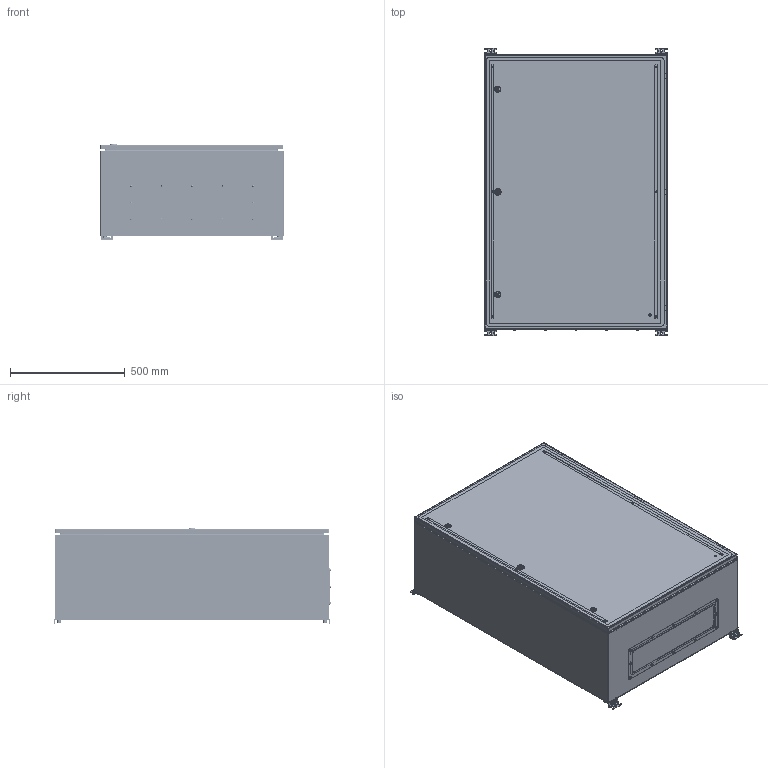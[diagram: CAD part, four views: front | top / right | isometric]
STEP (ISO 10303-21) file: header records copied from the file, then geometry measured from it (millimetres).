
FILE_DESCRIPTION(('STEP AP242'), '1');
FILE_NAME('400 ﾙﾌﾏ-1 (IP-56)', '', ('UNSPECIFIED'), ('UNSPECIFIED'), 'C3D Converter', 'C3D Toolkit', '');
FILE_SCHEMA(('AP242_MANAGED_MODEL_BASED_3D_ENGINEERING_MIM_LF { 1 0 10303 442 1 1 4 }'));
Length unit declared in the file: millimetre
Products named in the file (49): ЩМП-1-Л СБ; 410-Л; 420; 421; 411; 430-Л; 431-Л; 490; 491; 401; 440; 441; 402; 403
Assembly tree (158 placements, depth 4):
  ЩМП-1-Л СБ
    410-Л
      420
        421
        (unnamed)  x6
        (unnamed)
      411
      430-Л
        431-Л
        (unnamed)  x12
    490  x2
      491
      (unnamed)
      (unnamed)
      (unnamed)
      (unnamed)
      (unnamed)
    490  x2
      491
      (unnamed)
      (unnamed)
      (unnamed)
      (unnamed)
      (unnamed)
    401
    (unnamed)  x6
    (unnamed)  x6
    (unnamed)  x6
    (unnamed)  x3
      (unnamed)
      (unnamed)
      (unnamed)
    (unnamed)  x18
    440
      441
      (unnamed)
      (unnamed)  x6
      (unnamed)  x2
      (unnamed)  x3
    402  x2
    (unnamed)  x6
    (unnamed)  x6
    (unnamed)  x2
    (unnamed)
      (unnamed)
      (unnamed)
      (unnamed)
      (unnamed)
      (unnamed)
    (unnamed)
    (unnamed)  x2
      (unnamed)
      (unnamed)
      (unnamed)
    (unnamed)  x2
    (unnamed)  x2
    403
    (unnamed)  x12
    (unnamed)  x12
Bounding box: 800 x 1256 x 423.1 mm (x, y, z)
Volume: 8028895 mm3; surface area: 9703835.5 mm2
Topology: 170 solids, 172 shells, 3175 faces, 7364 edges, 4645 vertices
Faces by surface type: plane 1733, cylinder 953, cone 291, torus 76, bspline 70, sphere 52
Full cylindrical faces by diameter (mm): 0.5 x6, 2.6 x4, 3.5 x168, 4 x4, 4.134 x14, 4.2 x6, 4.85 x2, 4.917 x6, 5 x27, 5.5 x20, 5.8 x1, 6 x35, 6.38 x12, 6.4 x18, 6.5 x4, 6.647 x10, 7 x9, 7.3 x6, 7.5 x9, 7.74 x12, 7.9 x4, 8 x17, 8.3 x2, 8.4 x10, 8.5 x32, 8.7 x12, 9 x10, 10 x26, 10.4 x1, 10.5 x5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
Entity records: 83782 total; most frequent: CARTESIAN_POINT 43145, DIRECTION 6660, ORIENTED_EDGE 6152, EDGE_CURVE 3076, AXIS2_PLACEMENT_3D 2597, VERTEX_POINT 2100, EDGE_LOOP 2032, FACE_BOUND 1521
